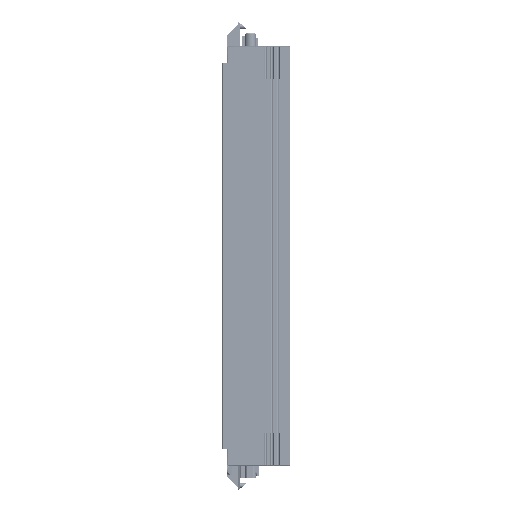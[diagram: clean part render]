
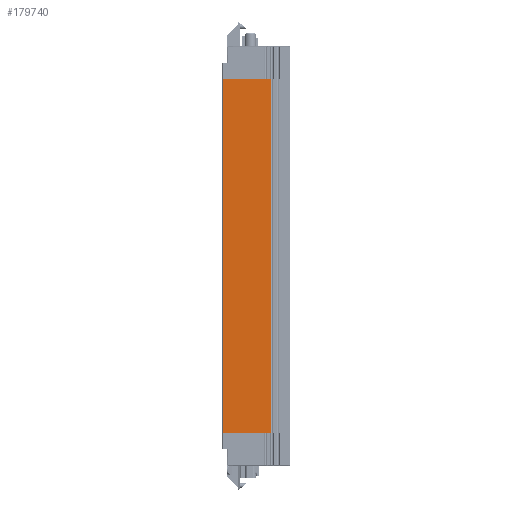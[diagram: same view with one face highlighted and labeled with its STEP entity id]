
A CAD part, front view. The second image highlights one B-rep face of the part: STEP entity #179740.
In plain terms, the highlighted planar face has unit normal (0, -1, 0).
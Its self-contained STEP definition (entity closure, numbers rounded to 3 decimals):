
#10634=FACE_OUTER_BOUND('',#20361,.T.);
#20361=EDGE_LOOP('',(#122952,#122953,#122954,#122955));
#37330=LINE('',#257994,#55282);
#37421=LINE('',#258248,#55373);
#37422=LINE('',#258252,#55374);
#37423=LINE('',#258253,#55375);
#55282=VECTOR('',#211492,10.);
#55373=VECTOR('',#211709,10.);
#55374=VECTOR('',#211714,10.);
#55375=VECTOR('',#211715,10.);
#72234=VERTEX_POINT('',#257991);
#72235=VERTEX_POINT('',#257993);
#72335=VERTEX_POINT('',#258247);
#72336=VERTEX_POINT('',#258251);
#90954=EDGE_CURVE('',#72235,#72234,#37330,.T.);
#91081=EDGE_CURVE('',#72335,#72235,#37421,.T.);
#91083=EDGE_CURVE('',#72336,#72234,#37422,.T.);
#91084=EDGE_CURVE('',#72335,#72336,#37423,.T.);
#122952=ORIENTED_EDGE('',*,*,#90954,.T.);
#122953=ORIENTED_EDGE('',*,*,#91083,.F.);
#122954=ORIENTED_EDGE('',*,*,#91084,.F.);
#122955=ORIENTED_EDGE('',*,*,#91081,.T.);
#163772=PLANE('',#190397);
#179740=ADVANCED_FACE('',(#10634),#163772,.T.);
#190397=AXIS2_PLACEMENT_3D('',#258250,#211712,#211713);
#211492=DIRECTION('',(-1.,0.,0.));
#211709=DIRECTION('',(0.,0.,1.));
#211712=DIRECTION('center_axis',(0.,-1.,0.));
#211713=DIRECTION('ref_axis',(0.,0.,
1.));
#211714=DIRECTION('',(0.,0.,1.));
#211715=DIRECTION('',(-1.,0.,0.));
#257991=CARTESIAN_POINT('',(-27.128,-36.52,200.));
#257993=CARTESIAN_POINT('',(3.83,-36.52,200.));
#257994=CARTESIAN_POINT('',(3.83,-36.52,200.));
#258247=CARTESIAN_POINT('',(3.83,-36.52,-30.2));
#258248=CARTESIAN_POINT('',(3.83,-36.52,100.));
#258250=CARTESIAN_POINT('Origin',(3.83,-36.52,100.));
#258251=CARTESIAN_POINT('',(-27.128,-36.52,-30.2));
#258252=CARTESIAN_POINT('',(-27.128,-36.52,100.));
#258253=CARTESIAN_POINT('',(3.83,-36.52,-30.2));
